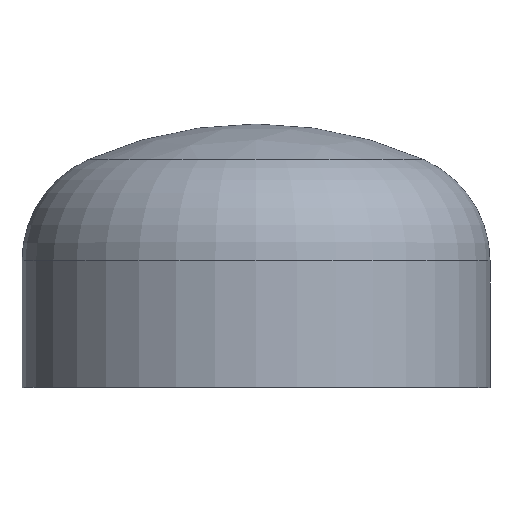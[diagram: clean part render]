
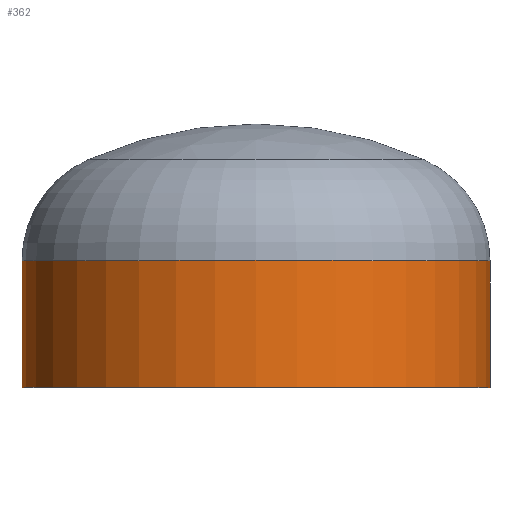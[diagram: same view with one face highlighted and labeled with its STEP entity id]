
A CAD part, top view. The second image highlights one B-rep face of the part: STEP entity #362.
In plain terms, the highlighted cylindrical face has radius 203.2 mm (diameter 406.4 mm), a partial arc.
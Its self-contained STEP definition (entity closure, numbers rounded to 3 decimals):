
#8 = AXIS2_PLACEMENT_3D ( 'NONE', #218, #168, #382 ) ;
#9 = VERTEX_POINT ( 'NONE', #267 ) ;
#24 = ORIENTED_EDGE ( 'NONE', *, *, #78, .F. ) ;
#30 = AXIS2_PLACEMENT_3D ( 'NONE', #159, #151, #158 ) ;
#40 = VERTEX_POINT ( 'NONE', #293 ) ;
#69 = VERTEX_POINT ( 'NONE', #409 ) ;
#75 = AXIS2_PLACEMENT_3D ( 'NONE', #250, #249, #255 ) ;
#78 = EDGE_CURVE ( 'NONE', #9, #131, #265, .T. ) ;
#91 = LINE ( 'NONE', #193, #304 ) ;
#108 = EDGE_CURVE ( 'NONE', #40, #131, #91, .T. ) ;
#128 = ORIENTED_EDGE ( 'NONE', *, *, #108, .T. ) ;
#131 = VERTEX_POINT ( 'NONE', #311 ) ;
#133 = ORIENTED_EDGE ( 'NONE', *, *, #303, .F. ) ;
#143 = EDGE_LOOP ( 'NONE', ( #157, #128, #24, #133 ) ) ;
#151 = DIRECTION ( 'NONE',  ( 0., -1., 0. ) ) ;
#157 = ORIENTED_EDGE ( 'NONE', *, *, #315, .T. ) ;
#158 = DIRECTION ( 'NONE',  ( 1., 0., 0. ) ) ;
#159 = CARTESIAN_POINT ( 'NONE',  ( 0., 110., 0. ) ) ;
#160 = VECTOR ( 'NONE', #407, 1000. ) ;
#168 = DIRECTION ( 'NONE',  ( 0., -1., 0. ) ) ;
#193 = CARTESIAN_POINT ( 'NONE',  ( -203.2, 0., 0. ) ) ;
#218 = CARTESIAN_POINT ( 'NONE',  ( 0., 0., 0. ) ) ;
#228 = CYLINDRICAL_SURFACE ( 'NONE', #8, 203.2 ) ;
#249 = DIRECTION ( 'NONE',  ( 0., -1., 0. ) ) ;
#250 = CARTESIAN_POINT ( 'NONE',  ( 0., 0., 0. ) ) ;
#255 = DIRECTION ( 'NONE',  ( 1., 0., 0. ) ) ;
#265 = CIRCLE ( 'NONE', #75, 203.2 ) ;
#267 = CARTESIAN_POINT ( 'NONE',  ( 203.2, 0., 0. ) ) ;
#293 = CARTESIAN_POINT ( 'NONE',  ( -203.2, 110., 0. ) ) ;
#303 = EDGE_CURVE ( 'NONE', #69, #9, #400, .T. ) ;
#304 = VECTOR ( 'NONE', #353, 1000. ) ;
#311 = CARTESIAN_POINT ( 'NONE',  ( -203.2, 0., 0. ) ) ;
#315 = EDGE_CURVE ( 'NONE', #69, #40, #404, .T. ) ;
#349 = FACE_OUTER_BOUND ( 'NONE', #143, .T. ) ;
#353 = DIRECTION ( 'NONE',  ( 0., -1., 0. ) ) ;
#362 = ADVANCED_FACE ( 'NONE', ( #349 ), #228, .T. ) ;
#382 = DIRECTION ( 'NONE',  ( 1., 0., 0. ) ) ;
#395 = CARTESIAN_POINT ( 'NONE',  ( 203.2, 0., 0. ) ) ;
#400 = LINE ( 'NONE', #395, #160 ) ;
#404 = CIRCLE ( 'NONE', #30, 203.2 ) ;
#407 = DIRECTION ( 'NONE',  ( 0., -1., 0. ) ) ;
#409 = CARTESIAN_POINT ( 'NONE',  ( 203.2, 110., 0. ) ) ;
